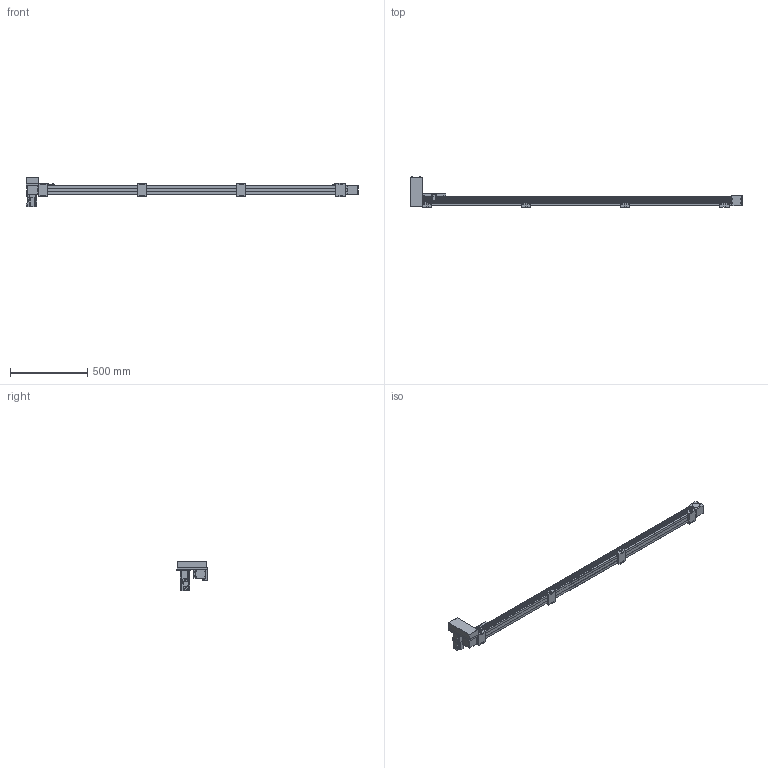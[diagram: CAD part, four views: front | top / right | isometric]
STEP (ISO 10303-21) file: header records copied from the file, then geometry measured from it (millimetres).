
FILE_DESCRIPTION(/* description */ ('STEP AP214'),/* implementation_level */ '2;1');
FILE_NAME(/* name */ 'SK60-P13-S1850-RU-T40-C1-N(0)',/* time_stamp */ '2023-04-06T05:04:48+02:00',/* author */ ('License CC BY-ND 4.0'),/* organization */ ('CADENAS'),/* preprocessor_version */ 'ST-DEVELOPER v19.3',/* originating_system */ 'PARTsolutions',/* authorisation */ ' ');
FILE_SCHEMA (('AUTOMOTIVE_DESIGN {1 0 10303 214 3 1 1}'));
Length unit declared in the file: millimetre
Products named in the file (10): SK60-P13-S1850-RU-T40-C1-N(0); PSC140-sensor; SK60-S450_seat; SK60-S450-BL-C1_slider; SK60_body3; SK60_body6; SK60-BL_body2; T40-p1; SK60-RU_fb; SK60-S1850-RU-C1_body
Assembly tree (18 placements, depth 2):
  SK60-P13-S1850-RU-T40-C1-N(0)
    PSC140-sensor  x3
    SK60-S450_seat  x4
    SK60-S450-BL-C1_slider
    SK60_body3  x3
    SK60_body6  x2
    SK60-BL_body2  x2
    T40-p1
    SK60-RU_fb
    SK60-S1850-RU-C1_body
Bounding box: 2155.5 x 201 x 189.7 mm (x, y, z)
Volume: 8504400.6 mm3; surface area: 1019682.6 mm2
Topology: 18 solids, 18 shells, 898 faces, 2244 edges, 1477 vertices
Faces by surface type: plane 572, cylinder 294, cone 30, torus 2
Full cylindrical faces by diameter (mm): 2.8 x3, 3.3 x4, 4 x2, 4.5 x30, 4.6 x3, 4.917 x24, 5 x6, 5.478 x4, 5.5 x27, 6.5 x8, 7 x2, 8 x4, 8.5 x4, 9.988 x4, 10 x16, 14 x1, 47 x3, 50 x2
Entity records: 18671 total; most frequent: DIRECTION 3188, CARTESIAN_POINT 3152, ORIENTED_EDGE 2940, EDGE_CURVE 1470, AXIS2_PLACEMENT_3D 1070, LINE 1048, VECTOR 1048, VERTEX_POINT 1034
